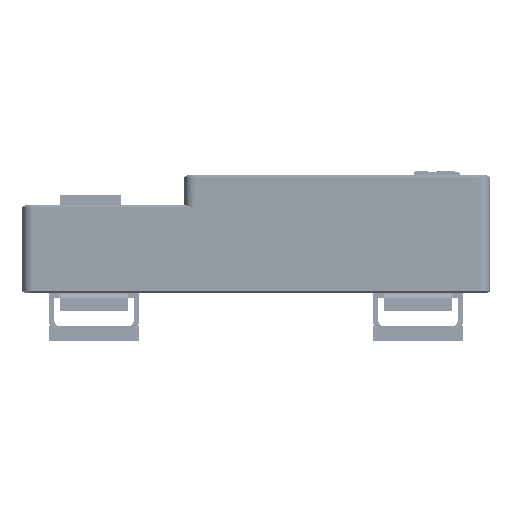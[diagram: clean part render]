
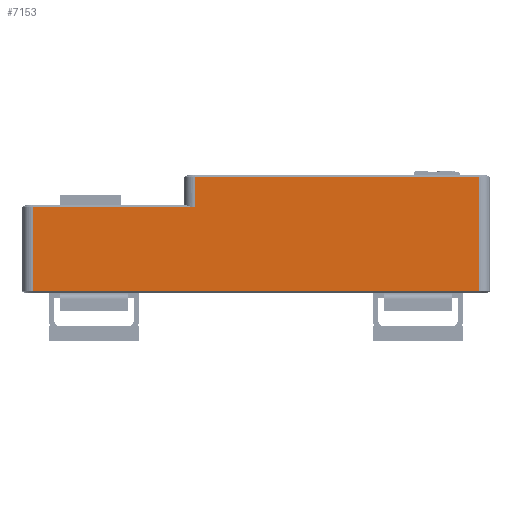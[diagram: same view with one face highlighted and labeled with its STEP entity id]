
A CAD part, front view. The second image highlights one B-rep face of the part: STEP entity #7153.
In plain terms, the highlighted planar face has unit normal (0, -1, 0).
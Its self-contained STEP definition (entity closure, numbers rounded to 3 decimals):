
#589=DIRECTION('',(1.,0.,0.));
#590=VECTOR('',#589,45.);
#591=CARTESIAN_POINT('',(-57.,-33.5,
-8.3));
#592=LINE('',#591,#590);
#603=DIRECTION('',(-1.,0.,0.));
#604=VECTOR('',#603,78.95);
#605=CARTESIAN_POINT('',(66.95,-33.5,
0.));
#606=LINE('',#605,#604);
#816=DIRECTION('',(1.,0.,0.));
#817=VECTOR('',#816,123.95);
#818=CARTESIAN_POINT('',(-57.,-33.5,
-31.7));
#819=LINE('',#818,#817);
#963=DIRECTION('',(0.,0.,-1.));
#964=VECTOR('',#963,23.4);
#965=CARTESIAN_POINT('',(-57.,-33.5,
-8.3));
#966=LINE('',#965,#964);
#1037=DIRECTION('',(0.,0.,1.));
#1038=VECTOR('',#1037,31.7);
#1039=CARTESIAN_POINT('',(66.95,-33.5,
-31.7));
#1040=LINE('',#1039,#1038);
#5891=DIRECTION('',(0.,0.,-1.));
#5892=VECTOR('',#5891,8.3);
#5893=CARTESIAN_POINT('',(-12.,-33.5,
0.));
#5894=LINE('',#5893,#5892);
#6009=CARTESIAN_POINT('',(-57.,-33.5,
-31.7));
#6010=CARTESIAN_POINT('',(66.95,-33.5,
-31.7));
#6011=VERTEX_POINT('',#6009);
#6012=VERTEX_POINT('',#6010);
#6013=CARTESIAN_POINT('',(66.95,-33.5,
0.));
#6014=CARTESIAN_POINT('',(-12.,-33.5,
0.));
#6015=VERTEX_POINT('',#6013);
#6016=VERTEX_POINT('',#6014);
#6017=CARTESIAN_POINT('',(-57.,-33.5,
-8.3));
#6018=VERTEX_POINT('',#6017);
#6019=CARTESIAN_POINT('',(-12.,-33.5,
-8.3));
#6020=VERTEX_POINT('',#6019);
#7135=CARTESIAN_POINT('',(123.7,-33.5,-1.8));
#7136=DIRECTION('',(0.,1.,0.));
#7137=DIRECTION('',(0.,0.,-1.));
#7138=AXIS2_PLACEMENT_3D('',#7135,#7136,#7137);
#7139=PLANE('',#7138);
#7141=ORIENTED_EDGE('',*,*,#7140,.F.);
#7143=ORIENTED_EDGE('',*,*,#7142,.F.);
#7145=ORIENTED_EDGE('',*,*,#7144,.F.);
#7147=ORIENTED_EDGE('',*,*,#7146,.F.);
#7148=ORIENTED_EDGE('',*,*,#7125,.T.);
#7150=ORIENTED_EDGE('',*,*,#7149,.F.);
#7151=EDGE_LOOP('',(#7141,#7143,#7145,#7147,#7148,#7150));
#7152=FACE_OUTER_BOUND('',#7151,.F.);
#7125=EDGE_CURVE('',#6018,#6020,#592,.T.);
#7140=EDGE_CURVE('',#6015,#6016,#606,.T.);
#7142=EDGE_CURVE('',#6012,#6015,#1040,.T.);
#7144=EDGE_CURVE('',#6011,#6012,#819,.T.);
#7146=EDGE_CURVE('',#6018,#6011,#966,.T.);
#7149=EDGE_CURVE('',#6016,#6020,#5894,.T.);
#7153=ADVANCED_FACE('',(#7152),#7139,.F.);
